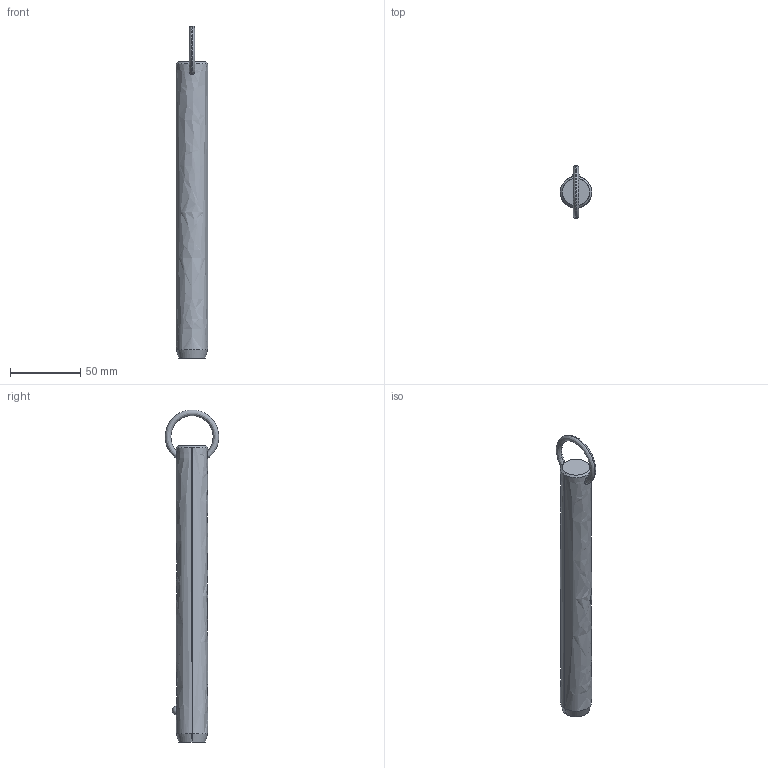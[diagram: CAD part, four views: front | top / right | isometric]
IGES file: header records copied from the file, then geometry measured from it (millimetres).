
Start section: SolidWorks IGES file using analytic representation for surfaces
Global section: file name: C:\Users\liam_\OneDrive\Documents\WORK\Work for WixRoyd\Job Files\J-00019 - Matt Davis CAD Checking\04. CAD Drawings\automotion20190605\P1250.2_v2\P1250.2_v2_20190729_IGES\P1250.087-680.igs; native system: SolidWorks 2017; preprocessor: SolidWorks 2017; author: liam_; date: 190730.172900; units: millimetre
Bounding box: 22.2 x 38.08 x 236.19 mm (x, y, z)
Surface area: 16345.7 mm2 (no closed solid volume)
Topology: 0 solids, 0 shells, 12 faces, 302 edges, 300 vertices
Faces by surface type: revolution 8, bspline 4
